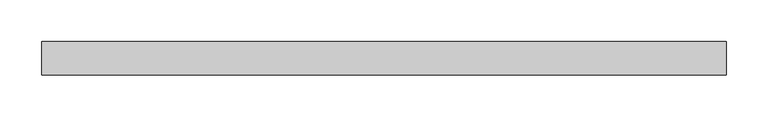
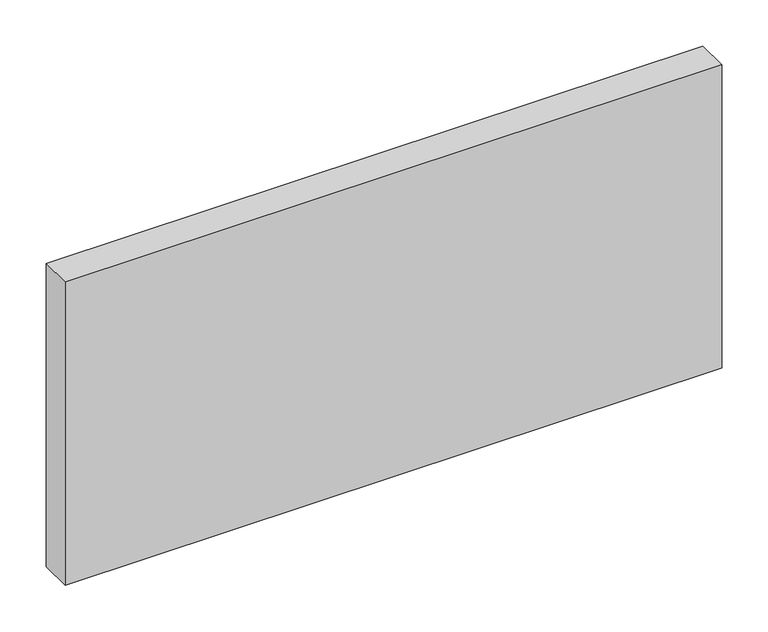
"""IFC4 building model written with IfcOpenShell, lengths in millimetres: plate geometry, Panneau système vide : Epaiss. 4cm."""

from ifc_helpers import new_model, si_unit, origin, origin_with_axes, place, context, project, spatial, polyline, outline, extrude, source, transform, mapped, element, save


def plate_04b27a88(model_context):
    return source(origin(), model_context, "Body", "SweptSolid", [
        extrude(outline(polyline([(408.15, -20.0), (-408.15, -20.0), (-408.15, 20.0), (408.15, 20.0), (408.15, -20.0)])), origin_with_axes(), (0.0, 0.0, 1.0), 399.0),
    ])


if __name__ == "__main__":
    model = new_model("IFC4")
    model_context = context("Model", 3, world=origin())
    ifc_project = project(units=[si_unit("LENGTHUNIT", "METRE", prefix="MILLI")], contexts=[model_context])
    site = spatial("IfcSite", under=ifc_project)
    building = spatial("IfcBuilding", under=site)
    placement = place(None, origin())
    plate_shape = plate_04b27a88(model_context)
    element("IfcPlate", 1, ObjectType="Panneau système vide : Epaiss. 4cm", at=placement, inside=building, context=model_context, shape_type="MappedRepresentation", body=[
        mapped(plate_shape, transform((0.0, 0.0, 0.0), x_axis=(1.0, 0.0, 0.0), y_axis=(0.0, 1.0, 0.0), z_axis=(0.0, 0.0, 1.0))),
    ])
    save(model, "model.ifc")
